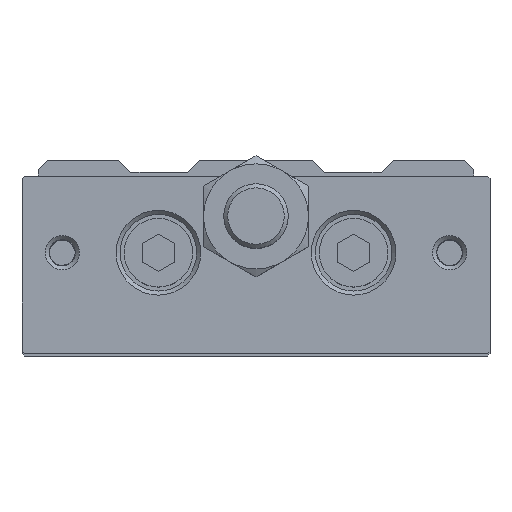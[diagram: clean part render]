
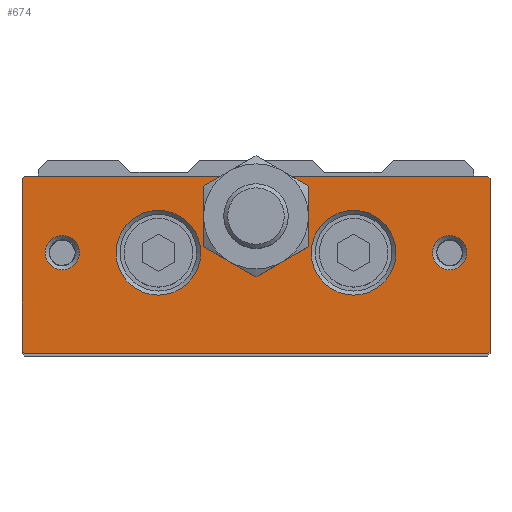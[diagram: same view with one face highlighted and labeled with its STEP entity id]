
A CAD part, top view. The second image highlights one B-rep face of the part: STEP entity #674.
In plain terms, the highlighted planar face has unit normal (0, 0, 1).
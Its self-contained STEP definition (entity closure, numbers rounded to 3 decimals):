
#455=CARTESIAN_POINT('',(-28.7,-13.,118.5));
#456=VERTEX_POINT('',#455);
#463=CARTESIAN_POINT('',(-29.,-12.7,118.5));
#464=VERTEX_POINT('',#463);
#465=CARTESIAN_POINT('',(-28.7,-13.,118.5));
#466=DIRECTION('',(-0.707,0.707,0.0));
#467=VECTOR('',#466,0.424);
#468=LINE('',#465,#467);
#469=EDGE_CURVE('',#456,#464,#468,.T.);
#486=CARTESIAN_POINT('',(-29.,8.7,118.5));
#487=VERTEX_POINT('',#486);
#488=CARTESIAN_POINT('',(-29.,8.7,118.5));
#489=DIRECTION('',(0.0,-1.0,0.0));
#490=VECTOR('',#489,21.4);
#491=LINE('',#488,#490);
#492=EDGE_CURVE('',#487,#464,#491,.T.);
#522=CARTESIAN_POINT('',(0.0,-13.,118.5));
#523=DIRECTION('',(0.0,0.0,1.0));
#524=DIRECTION('',(1.0,0.0,0.0));
#525=AXIS2_PLACEMENT_3D('',#522,#523,#524);
#526=PLANE('',#525);
#527=ORIENTED_EDGE('',*,*,#469,.F.);
#528=CARTESIAN_POINT('',(28.7,-13.,118.5));
#529=VERTEX_POINT('',#528);
#530=CARTESIAN_POINT('',(-28.7,-13.,118.5));
#531=DIRECTION('',(1.0,0.0,0.0));
#532=VECTOR('',#531,57.4);
#533=LINE('',#530,#532);
#534=EDGE_CURVE('',#456,#529,#533,.T.);
#535=ORIENTED_EDGE('',*,*,#534,.T.);
#536=CARTESIAN_POINT('',(29.,-12.7,118.5));
#537=VERTEX_POINT('',#536);
#538=CARTESIAN_POINT('',(29.,-12.7,118.5));
#539=DIRECTION('',(-0.707,-0.707,0.0));
#540=VECTOR('',#539,0.424);
#541=LINE('',#538,#540);
#542=EDGE_CURVE('',#537,#529,#541,.T.);
#543=ORIENTED_EDGE('',*,*,#542,.F.);
#544=CARTESIAN_POINT('',(29.,8.7,118.5));
#545=VERTEX_POINT('',#544);
#546=CARTESIAN_POINT('',(29.,-12.7,118.5));
#547=DIRECTION('',(0.0,1.0,0.0));
#548=VECTOR('',#547,21.4);
#549=LINE('',#546,#548);
#550=EDGE_CURVE('',#537,#545,#549,.T.);
#551=ORIENTED_EDGE('',*,*,#550,.T.);
#552=CARTESIAN_POINT('',(28.7,9.,118.5));
#553=VERTEX_POINT('',#552);
#554=CARTESIAN_POINT('',(28.7,9.,118.5));
#555=DIRECTION('',(0.707,-0.707,0.0));
#556=VECTOR('',#555,0.424);
#557=LINE('',#554,#556);
#558=EDGE_CURVE('',#553,#545,#557,.T.);
#559=ORIENTED_EDGE('',*,*,#558,.F.);
#560=CARTESIAN_POINT('',(4.153,9.,118.5));
#561=VERTEX_POINT('',#560);
#562=CARTESIAN_POINT('',(28.7,9.,118.5));
#563=DIRECTION('',(-1.0,0.0,0.0));
#564=VECTOR('',#563,24.547);
#565=LINE('',#562,#564);
#566=EDGE_CURVE('',#553,#561,#565,.T.);
#567=ORIENTED_EDGE('',*,*,#566,.T.);
#568=CARTESIAN_POINT('',(6.5,4.,118.5));
#569=VERTEX_POINT('',#568);
#570=CARTESIAN_POINT('',(0.0,4.,118.5));
#571=DIRECTION('',(0.0,0.0,1.0));
#572=DIRECTION('',(0.0,1.0,0.0));
#573=AXIS2_PLACEMENT_3D('',#570,#571,#572);
#574=CIRCLE('',#573,6.5);
#575=EDGE_CURVE('',#569,#561,#574,.T.);
#576=ORIENTED_EDGE('',*,*,#575,.F.);
#577=CARTESIAN_POINT('',(3.25,-1.629,118.5));
#578=VERTEX_POINT('',#577);
#579=CARTESIAN_POINT('',(0.0,4.,118.5));
#580=DIRECTION('',(0.0,0.0,1.0));
#581=DIRECTION('',(0.0,1.0,0.0));
#582=AXIS2_PLACEMENT_3D('',#579,#580,#581);
#583=CIRCLE('',#582,6.5);
#584=EDGE_CURVE('',#578,#569,#583,.T.);
#585=ORIENTED_EDGE('',*,*,#584,.F.);
#586=CARTESIAN_POINT('',(-3.25,-1.629,118.5));
#587=VERTEX_POINT('',#586);
#588=CARTESIAN_POINT('',(0.0,4.,118.5));
#589=DIRECTION('',(0.0,0.0,1.0));
#590=DIRECTION('',(0.0,1.0,0.0));
#591=AXIS2_PLACEMENT_3D('',#588,#589,#590);
#592=CIRCLE('',#591,6.5);
#593=EDGE_CURVE('',#587,#578,#592,.T.);
#594=ORIENTED_EDGE('',*,*,#593,.F.);
#595=CARTESIAN_POINT('',(-6.5,4.,118.5));
#596=VERTEX_POINT('',#595);
#597=CARTESIAN_POINT('',(0.0,4.,118.5));
#598=DIRECTION('',(0.0,0.0,1.0));
#599=DIRECTION('',(0.0,1.0,0.0));
#600=AXIS2_PLACEMENT_3D('',#597,#598,#599);
#601=CIRCLE('',#600,6.5);
#602=EDGE_CURVE('',#596,#587,#601,.T.);
#603=ORIENTED_EDGE('',*,*,#602,.F.);
#604=CARTESIAN_POINT('',(-4.153,9.,118.5));
#605=VERTEX_POINT('',#604);
#606=CARTESIAN_POINT('',(0.0,4.,118.5));
#607=DIRECTION('',(0.0,0.0,1.0));
#608=DIRECTION('',(0.0,1.0,0.0));
#609=AXIS2_PLACEMENT_3D('',#606,#607,#608);
#610=CIRCLE('',#609,6.5);
#611=EDGE_CURVE('',#605,#596,#610,.T.);
#612=ORIENTED_EDGE('',*,*,#611,.F.);
#613=CARTESIAN_POINT('',(-28.7,9.,118.5));
#614=VERTEX_POINT('',#613);
#615=CARTESIAN_POINT('',(-4.153,9.,118.5));
#616=DIRECTION('',(-1.0,0.0,0.0));
#617=VECTOR('',#616,24.547);
#618=LINE('',#615,#617);
#619=EDGE_CURVE('',#605,#614,#618,.T.);
#620=ORIENTED_EDGE('',*,*,#619,.T.);
#621=CARTESIAN_POINT('',(-29.,8.7,118.5));
#622=DIRECTION('',(0.707,0.707,0.0));
#623=VECTOR('',#622,0.424);
#624=LINE('',#621,#623);
#625=EDGE_CURVE('',#487,#614,#624,.T.);
#626=ORIENTED_EDGE('',*,*,#625,.F.);
#627=ORIENTED_EDGE('',*,*,#492,.T.);
#628=EDGE_LOOP('',(#527,#535,#543,#551,#559,#567,#576,#585,#594,#603,#612,#620,#626,#627));
#629=FACE_OUTER_BOUND('',#628,.T.);
#630=CARTESIAN_POINT('',(-21.879,-0.5,118.5));
#631=VERTEX_POINT('',#630);
#632=CARTESIAN_POINT('',(-24.,-0.5,118.5));
#633=DIRECTION('',(0.0,0.0,1.0));
#634=DIRECTION('',(-1.0,0.0,0.0));
#635=AXIS2_PLACEMENT_3D('',#632,#633,#634);
#636=CIRCLE('',#635,2.121);
#637=EDGE_CURVE('',#631,#631,#636,.T.);
#638=ORIENTED_EDGE('',*,*,#637,.F.);
#639=EDGE_LOOP('',(#638));
#640=FACE_BOUND('',#639,.T.);
#641=CARTESIAN_POINT('',(26.121,-0.5,118.5));
#642=VERTEX_POINT('',#641);
#643=CARTESIAN_POINT('',(24.,-0.5,118.5));
#644=DIRECTION('',(0.0,0.0,1.0));
#645=DIRECTION('',(-1.0,0.0,0.0));
#646=AXIS2_PLACEMENT_3D('',#643,#644,#645);
#647=CIRCLE('',#646,2.121);
#648=EDGE_CURVE('',#642,#642,#647,.T.);
#649=ORIENTED_EDGE('',*,*,#648,.F.);
#650=EDGE_LOOP('',(#649));
#651=FACE_BOUND('',#650,.T.);
#652=CARTESIAN_POINT('',(-6.85,-0.5,118.5));
#653=VERTEX_POINT('',#652);
#654=CARTESIAN_POINT('',(-12.1,-0.5,118.5));
#655=DIRECTION('',(0.0,0.0,1.0));
#656=DIRECTION('',(-1.0,0.0,0.0));
#657=AXIS2_PLACEMENT_3D('',#654,#655,#656);
#658=CIRCLE('',#657,5.25);
#659=EDGE_CURVE('',#653,#653,#658,.T.);
#660=ORIENTED_EDGE('',*,*,#659,.F.);
#661=EDGE_LOOP('',(#660));
#662=FACE_BOUND('',#661,.T.);
#663=CARTESIAN_POINT('',(17.35,-0.5,118.5));
#664=VERTEX_POINT('',#663);
#665=CARTESIAN_POINT('',(12.1,-0.5,118.5));
#666=DIRECTION('',(0.0,0.0,1.0));
#667=DIRECTION('',(-1.0,0.0,0.0));
#668=AXIS2_PLACEMENT_3D('',#665,#666,#667);
#669=CIRCLE('',#668,5.25);
#670=EDGE_CURVE('',#664,#664,#669,.T.);
#671=ORIENTED_EDGE('',*,*,#670,.F.);
#672=EDGE_LOOP('',(#671));
#673=FACE_BOUND('',#672,.T.);
#674=ADVANCED_FACE('',(#629,#640,#651,#662,#673),#526,.T.);
